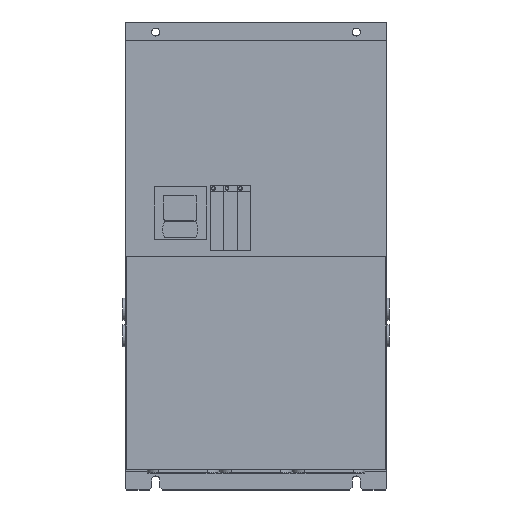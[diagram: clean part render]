
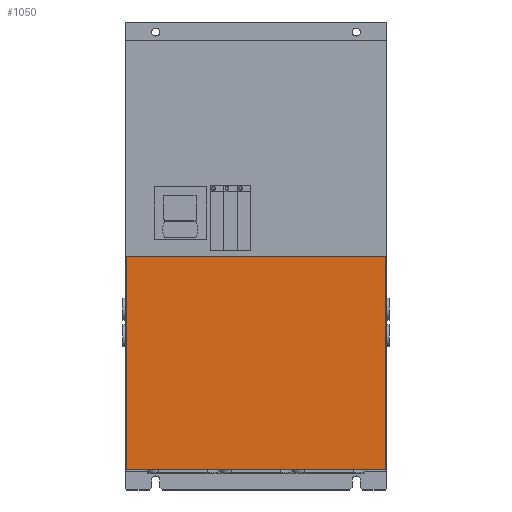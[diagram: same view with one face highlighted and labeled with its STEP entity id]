
A CAD part, top view. The second image highlights one B-rep face of the part: STEP entity #1050.
In plain terms, the highlighted planar face has unit normal (0, 0, 1).
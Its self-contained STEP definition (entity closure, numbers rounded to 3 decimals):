
#55 = VERTEX_POINT('',#56);
#56 = CARTESIAN_POINT('',(-194.,318.5,6.4));
#63 = PLANE('',#64);
#64 = AXIS2_PLACEMENT_3D('',#65,#66,#67);
#65 = CARTESIAN_POINT('',(-194.,0.,0.));
#66 = DIRECTION('',(1.,0.,0.));
#67 = DIRECTION('',(0.,0.,-1.));
#75 = PLANE('',#76);
#76 = AXIS2_PLACEMENT_3D('',#77,#78,#79);
#77 = CARTESIAN_POINT('',(194.,318.5,1.2));
#78 = DIRECTION('',(0.,-1.,0.));
#79 = DIRECTION('',(0.,0.,-1.));
#116 = VERTEX_POINT('',#117);
#117 = CARTESIAN_POINT('',(-194.,0.,6.4));
#131 = PLANE('',#132);
#132 = AXIS2_PLACEMENT_3D('',#133,#134,#135);
#133 = CARTESIAN_POINT('',(194.,0.,6.4));
#134 = DIRECTION('',(0.,1.,0.));
#135 = DIRECTION('',(0.,0.,1.));
#143 = EDGE_CURVE('',#55,#116,#144,.T.);
#144 = SURFACE_CURVE('',#145,(#149,#156),.PCURVE_S1.);
#145 = LINE('',#146,#147);
#146 = CARTESIAN_POINT('',(-194.,318.5,6.4));
#147 = VECTOR('',#148,1.);
#148 = DIRECTION('',(0.,-1.,0.));
#149 = PCURVE('',#63,#150);
#150 = DEFINITIONAL_REPRESENTATION('',(#151),#155);
#151 = LINE('',#152,#153);
#152 = CARTESIAN_POINT('',(-6.4,318.5));
#153 = VECTOR('',#154,1.);
#154 = DIRECTION('',(0.,-1.));
#155 = ( GEOMETRIC_REPRESENTATION_CONTEXT(2) 
PARAMETRIC_REPRESENTATION_CONTEXT() REPRESENTATION_CONTEXT('2D SPACE',''
  ) );
#156 = PCURVE('',#157,#162);
#157 = PLANE('',#158);
#158 = AXIS2_PLACEMENT_3D('',#159,#160,#161);
#159 = CARTESIAN_POINT('',(194.,318.5,6.4));
#160 = DIRECTION('',(0.,0.,-1.));
#161 = DIRECTION('',(-1.,0.,0.));
#162 = DEFINITIONAL_REPRESENTATION('',(#163),#167);
#163 = LINE('',#164,#165);
#164 = CARTESIAN_POINT('',(388.,0.));
#165 = VECTOR('',#166,1.);
#166 = DIRECTION('',(0.,-1.));
#167 = ( GEOMETRIC_REPRESENTATION_CONTEXT(2) 
PARAMETRIC_REPRESENTATION_CONTEXT() REPRESENTATION_CONTEXT('2D SPACE',''
  ) );
#349 = PLANE('',#350);
#350 = AXIS2_PLACEMENT_3D('',#351,#352,#353);
#351 = CARTESIAN_POINT('',(194.,0.,0.));
#352 = DIRECTION('',(1.,0.,0.));
#353 = DIRECTION('',(0.,0.,-1.));
#369 = VERTEX_POINT('',#370);
#370 = CARTESIAN_POINT('',(194.,318.5,6.4));
#391 = EDGE_CURVE('',#369,#392,#394,.T.);
#392 = VERTEX_POINT('',#393);
#393 = CARTESIAN_POINT('',(194.,0.,6.4));
#394 = SURFACE_CURVE('',#395,(#399,#406),.PCURVE_S1.);
#395 = LINE('',#396,#397);
#396 = CARTESIAN_POINT('',(194.,318.5,6.4));
#397 = VECTOR('',#398,1.);
#398 = DIRECTION('',(0.,-1.,0.));
#399 = PCURVE('',#349,#400);
#400 = DEFINITIONAL_REPRESENTATION('',(#401),#405);
#401 = LINE('',#402,#403);
#402 = CARTESIAN_POINT('',(-6.4,318.5));
#403 = VECTOR('',#404,1.);
#404 = DIRECTION('',(0.,-1.));
#405 = ( GEOMETRIC_REPRESENTATION_CONTEXT(2) 
PARAMETRIC_REPRESENTATION_CONTEXT() REPRESENTATION_CONTEXT('2D SPACE',''
  ) );
#406 = PCURVE('',#157,#407);
#407 = DEFINITIONAL_REPRESENTATION('',(#408),#412);
#408 = LINE('',#409,#410);
#409 = CARTESIAN_POINT('',(0.,0.));
#410 = VECTOR('',#411,1.);
#411 = DIRECTION('',(0.,-1.));
#412 = ( GEOMETRIC_REPRESENTATION_CONTEXT(2) 
PARAMETRIC_REPRESENTATION_CONTEXT() REPRESENTATION_CONTEXT('2D SPACE',''
  ) );
#1030 = EDGE_CURVE('',#392,#116,#1031,.T.);
#1031 = SURFACE_CURVE('',#1032,(#1036,#1043),.PCURVE_S1.);
#1032 = LINE('',#1033,#1034);
#1033 = CARTESIAN_POINT('',(194.,0.,6.4));
#1034 = VECTOR('',#1035,1.);
#1035 = DIRECTION('',(-1.,0.,0.));
#1036 = PCURVE('',#131,#1037);
#1037 = DEFINITIONAL_REPRESENTATION('',(#1038),#1042);
#1038 = LINE('',#1039,#1040);
#1039 = CARTESIAN_POINT('',(0.,0.));
#1040 = VECTOR('',#1041,1.);
#1041 = DIRECTION('',(0.,-1.));
#1042 = ( GEOMETRIC_REPRESENTATION_CONTEXT(2) 
PARAMETRIC_REPRESENTATION_CONTEXT() REPRESENTATION_CONTEXT('2D SPACE',''
  ) );
#1043 = PCURVE('',#157,#1044);
#1044 = DEFINITIONAL_REPRESENTATION('',(#1045),#1049);
#1045 = LINE('',#1046,#1047);
#1046 = CARTESIAN_POINT('',(0.,-318.5));
#1047 = VECTOR('',#1048,1.);
#1048 = DIRECTION('',(1.,0.));
#1049 = ( GEOMETRIC_REPRESENTATION_CONTEXT(2) 
PARAMETRIC_REPRESENTATION_CONTEXT() REPRESENTATION_CONTEXT('2D SPACE',''
  ) );
#1050 = ADVANCED_FACE('',(#1051),#157,.F.);
#1051 = FACE_BOUND('',#1052,.T.);
#1052 = EDGE_LOOP('',(#1053,#1054,#1055,#1056));
#1053 = ORIENTED_EDGE('',*,*,#143,.T.);
#1054 = ORIENTED_EDGE('',*,*,#1030,.F.);
#1055 = ORIENTED_EDGE('',*,*,#391,.F.);
#1056 = ORIENTED_EDGE('',*,*,#1057,.T.);
#1057 = EDGE_CURVE('',#369,#55,#1058,.T.);
#1058 = SURFACE_CURVE('',#1059,(#1063,#1070),.PCURVE_S1.);
#1059 = LINE('',#1060,#1061);
#1060 = CARTESIAN_POINT('',(194.,318.5,6.4));
#1061 = VECTOR('',#1062,1.);
#1062 = DIRECTION('',(-1.,0.,0.));
#1063 = PCURVE('',#157,#1064);
#1064 = DEFINITIONAL_REPRESENTATION('',(#1065),#1069);
#1065 = LINE('',#1066,#1067);
#1066 = CARTESIAN_POINT('',(0.,0.));
#1067 = VECTOR('',#1068,1.);
#1068 = DIRECTION('',(1.,0.));
#1069 = ( GEOMETRIC_REPRESENTATION_CONTEXT(2) 
PARAMETRIC_REPRESENTATION_CONTEXT() REPRESENTATION_CONTEXT('2D SPACE',''
  ) );
#1070 = PCURVE('',#75,#1071);
#1071 = DEFINITIONAL_REPRESENTATION('',(#1072),#1076);
#1072 = LINE('',#1073,#1074);
#1073 = CARTESIAN_POINT('',(-5.2,0.));
#1074 = VECTOR('',#1075,1.);
#1075 = DIRECTION('',(0.,-1.));
#1076 = ( GEOMETRIC_REPRESENTATION_CONTEXT(2) 
PARAMETRIC_REPRESENTATION_CONTEXT() REPRESENTATION_CONTEXT('2D SPACE',''
  ) );
